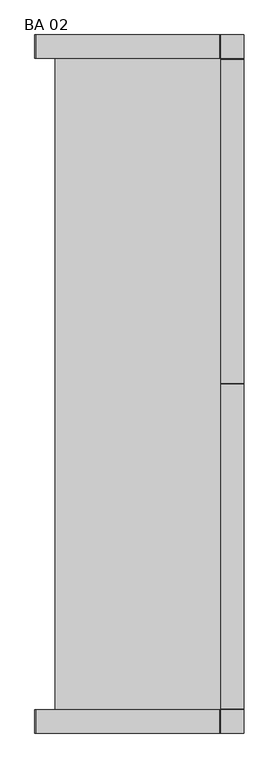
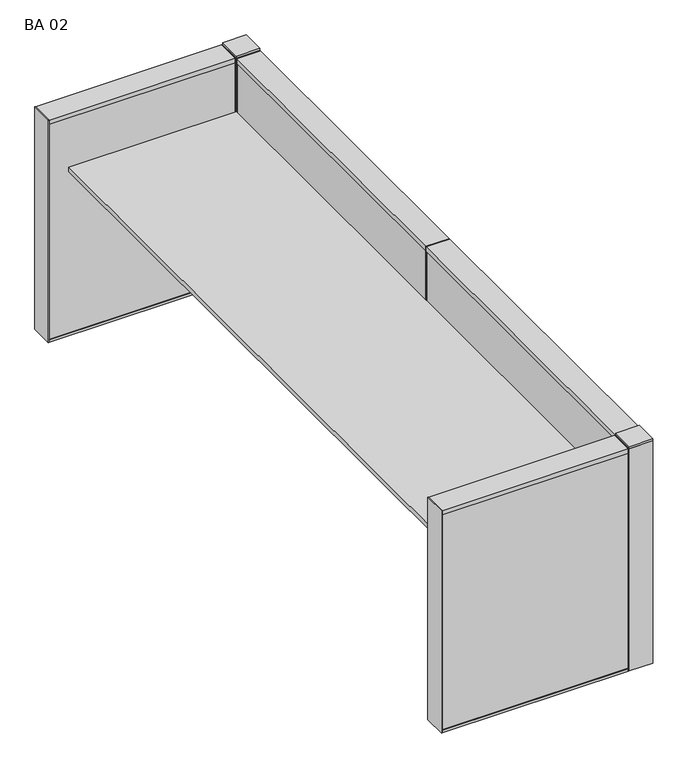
"""IFC4 building model written with IfcOpenShell, lengths in millimetres: furniture geometry, Mobiliário_MobiliáriodeEscritório_LinhaReasons_BalcãodeAtendimentoDuplo_Marelli : BA 02."""

from ifc_helpers import new_model, si_unit, frame, origin, origin_with_axes, place, context, project, spatial, polyline, outline, extrude, source, transform, mapped, element, save


def ba_02_3c27d150(model_context):
    return source(origin(), model_context, "Body", "SweptSolid", [
        extrude(outline(polyline([(100.0, 0.0), (0.0, 0.0), (0.0, 100.0), (100.0, 100.0), (100.0, 0.0)])), origin_with_axes(), (0.0, 0.0, 1.0), 1001.0),
        extrude(outline(polyline([(0.0, 1498.0), (100.0, 1498.0), (100.0, 104.0), (0.0, 104.0), (0.0, 1498.0)])), frame((0.0, 0.0, 981.0), z_axis=(0.0, 0.0, 1.0), x_axis=(1.0, 0.0, 0.0)), (0.0, 0.0, 1.0), 20.0),
        extrude(outline(polyline([(-796.0, 0.0), (-800.0, 0.0), (-800.0, 100.0), (-796.0, 100.0), (-796.0, 0.0)])), origin_with_axes(), (0.0, 0.0, 1.0), 1001.0),
        extrude(outline(polyline([(0.0, 0.0), (-4.0, 0.0), (-4.0, 100.0), (0.0, 100.0), (0.0, 0.0)])), origin_with_axes(), (0.0, 0.0, 1.0), 1001.0),
        extrude(outline(polyline([(100.0, 100.0), (0.0, 100.0), (0.0, 104.0), (100.0, 104.0), (100.0, 100.0)])), origin_with_axes(), (0.0, 0.0, 1.0), 1001.0),
        extrude(outline(polyline([(-4.0, 100.0), (-4.0, 0.0), (-796.0, 0.0), (-796.0, 100.0), (-4.0, 100.0)])), frame((0.0, 0.0, 981.0), z_axis=(0.0, 0.0, 1.0), x_axis=(1.0, 0.0, 0.0)), (0.0, 0.0, 1.0), 20.0),
        extrude(outline(polyline([(-4.0, 100.0), (-4.0, 0.0), (-796.0, 0.0), (-796.0, 100.0), (-4.0, 100.0)])), origin_with_axes(), (0.0, 0.0, 1.0), 12.0),
        extrude(outline(polyline([(100.0, 1498.0), (100.0, 104.0), (0.0, 104.0), (0.0, 1498.0), (100.0, 1498.0)])), origin_with_axes(), (0.0, 0.0, 1.0), 12.0),
        extrude(outline(polyline([(-4.0, 97.5), (-4.0, 2.5), (-796.0, 2.5), (-796.0, 97.5), (-4.0, 97.5)])), frame((0.0, 0.0, 12.0), z_axis=(0.0, 0.0, 1.0), x_axis=(1.0, 0.0, 0.0)), (0.0, 0.0, 1.0), 969.0),
        extrude(outline(polyline([(2.5, 104.0), (2.5, 1498.0), (97.5, 1498.0), (97.5, 104.0), (2.5, 104.0)])), frame((0.0, 0.0, 12.0), z_axis=(0.0, 0.0, 1.0), x_axis=(1.0, 0.0, 0.0)), (0.0, 0.0, 1.0), 969.0),
        extrude(outline(polyline([(-4.0, 2902.5), (-796.0, 2902.5), (-796.0, 2997.5), (-4.0, 2997.5), (-4.0, 2902.5)])), frame((0.0, 0.0, 12.0), z_axis=(0.0, 0.0, 1.0), x_axis=(1.0, 0.0, 0.0)), (0.0, 0.0, 1.0), 969.0),
        extrude(outline(polyline([(-713.6, 2900.0), (0.0, 2900.0), (0.0, 100.0), (-713.6, 100.0), (-713.6, 2900.0)])), frame((0.0, 0.0, 740.0), z_axis=(0.0, 0.0, 1.0), x_axis=(1.0, 0.0, 0.0)), (0.0, 0.0, 1.0), 20.0),
        extrude(outline(polyline([(0.0, 0.0), (0.0, 100.0), (100.0, 100.0), (100.0, 0.0), (0.0, 0.0)])), frame((0.0, 0.0, 1001.0), z_axis=(0.0, 0.0, 1.0), x_axis=(1.0, 0.0, 0.0)), (0.0, 0.0, 1.0), 9.0),
        extrude(outline(polyline([(0.0, 3000.0), (100.0, 3000.0), (100.0, 2900.0), (0.0, 2900.0), (0.0, 3000.0)])), frame((0.0, 0.0, 1001.0), z_axis=(0.0, 0.0, 1.0), x_axis=(1.0, 0.0, 0.0)), (0.0, 0.0, 1.0), 9.0),
        extrude(outline(polyline([(100.0, 2900.0), (0.0, 2900.0), (0.0, 3000.0), (100.0, 3000.0), (100.0, 2900.0)])), origin_with_axes(), (0.0, 0.0, 1.0), 1001.0),
        extrude(outline(polyline([(-796.0, 3000.0), (-796.0, 2900.0), (-800.0, 2900.0), (-800.0, 3000.0), (-796.0, 3000.0)])), origin_with_axes(), (0.0, 0.0, 1.0), 1001.0),
        extrude(outline(polyline([(0.0, 3000.0), (0.0, 2900.0), (-4.0, 2900.0), (-4.0, 3000.0), (0.0, 3000.0)])), origin_with_axes(), (0.0, 0.0, 1.0), 1001.0),
        extrude(outline(polyline([(100.0, 2900.0), (100.0, 2896.0), (0.0, 2896.0), (0.0, 2900.0), (100.0, 2900.0)])), origin_with_axes(), (0.0, 0.0, 1.0), 1001.0),
        extrude(outline(polyline([(-4.0, 2900.0), (-796.0, 2900.0), (-796.0, 3000.0), (-4.0, 3000.0), (-4.0, 2900.0)])), frame((0.0, 0.0, 981.0), z_axis=(0.0, 0.0, 1.0), x_axis=(1.0, 0.0, 0.0)), (0.0, 0.0, 1.0), 20.0),
        extrude(outline(polyline([(-4.0, 3000.0), (-4.0, 2900.0), (-796.0, 2900.0), (-796.0, 3000.0), (-4.0, 3000.0)])), origin_with_axes(), (0.0, 0.0, 1.0), 12.0),
        extrude(outline(polyline([(100.0, 1498.0), (0.0, 1498.0), (0.0, 1502.0), (100.0, 1502.0), (100.0, 1498.0)])), origin_with_axes(), (0.0, 0.0, 1.0), 1001.0),
        extrude(outline(polyline([(0.0, 1502.0), (0.0, 2896.0), (100.0, 2896.0), (100.0, 1502.0), (0.0, 1502.0)])), frame((0.0, 0.0, 981.0), z_axis=(0.0, 0.0, 1.0), x_axis=(1.0, 0.0, 0.0)), (0.0, 0.0, 1.0), 20.0),
        extrude(outline(polyline([(-4.0, 2902.5), (-796.0, 2902.5), (-796.0, 2997.5), (-4.0, 2997.5), (-4.0, 2902.5)])), frame((0.0, 0.0, 12.0), z_axis=(0.0, 0.0, 1.0), x_axis=(1.0, 0.0, 0.0)), (0.0, 0.0, 1.0), 969.0),
        extrude(outline(polyline([(2.5, 2896.0), (97.5, 2896.0), (97.5, 1502.0), (2.5, 1502.0), (2.5, 2896.0)])), frame((0.0, 0.0, 12.0), z_axis=(0.0, 0.0, 1.0), x_axis=(1.0, 0.0, 0.0)), (0.0, 0.0, 1.0), 969.0),
        extrude(outline(polyline([(-4.0, 97.5), (-4.0, 2.5), (-796.0, 2.5), (-796.0, 97.5), (-4.0, 97.5)])), frame((0.0, 0.0, 12.0), z_axis=(0.0, 0.0, 1.0), x_axis=(1.0, 0.0, 0.0)), (0.0, 0.0, 1.0), 969.0),
        extrude(outline(polyline([(100.0, 1502.0), (0.0, 1502.0), (0.0, 2896.0), (100.0, 2896.0), (100.0, 1502.0)])), origin_with_axes(), (0.0, 0.0, 1.0), 12.0),
    ])


if __name__ == "__main__":
    model = new_model("IFC4")
    model_context = context("Model", 3, world=origin())
    ifc_project = project(units=[si_unit("LENGTHUNIT", "METRE", prefix="MILLI")], contexts=[model_context])
    site = spatial("IfcSite", under=ifc_project)
    building = spatial("IfcBuilding", under=site)
    placement = place(None, origin())
    ba_02_shape = ba_02_3c27d150(model_context)
    element("IfcFurniture", 1, ObjectType="Mobiliário_MobiliáriodeEscritório_LinhaReasons_BalcãodeAtendimentoDuplo_Marelli : BA 02", at=placement, inside=building, context=model_context, shape_type="MappedRepresentation", body=[
        mapped(ba_02_shape, transform((0.0, 0.0, 0.0), x_axis=(1.0, 0.0, 0.0), y_axis=(0.0, 1.0, 0.0), z_axis=(0.0, 0.0, 1.0))),
    ])
    save(model, "model.ifc")
